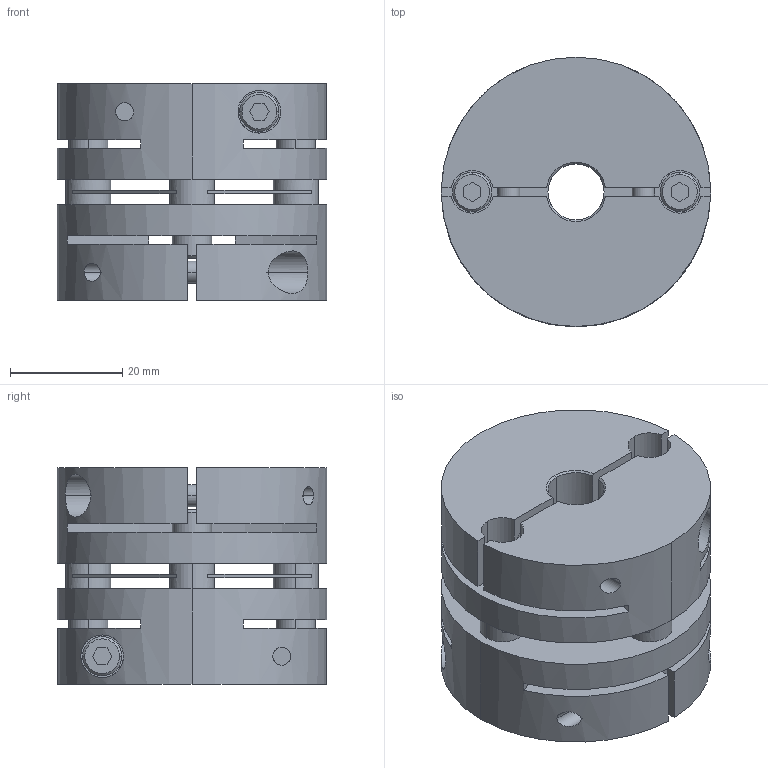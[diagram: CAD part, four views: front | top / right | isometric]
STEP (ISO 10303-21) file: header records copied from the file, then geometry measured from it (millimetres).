
FILE_DESCRIPTION((''),'2;1');
FILE_NAME('LAS-48C-10×18.stp','2015-10-14T15:39:41',(''),(''),'AutoCAD STEP 2000i','AutoCAD 2000i',', , ');
FILE_SCHEMA(('CONFIG_CONTROL_DESIGN'));
Length unit declared in the file: millimetre
Products named in the file (6): LAS-48C-12×19; 忣兜1; LA-4802-D19; LA-4802-D12-1; LA-4802-D12; LAS48-ITA
Assembly tree (5 placements, depth 2):
  LAS-48C-12×19
    忣兜1
    LA-4802-D19
    LA-4802-D12-1
    LA-4802-D12
    LAS48-ITA
Bounding box: 48 x 48 x 38.6 mm (x, y, z)
Volume: 50348.1 mm3; surface area: 22390 mm2
Topology: 1 solids, 1 shells, 224 faces, 600 edges, 392 vertices
Faces by surface type: plane 112, cylinder 84, cone 28
Entity records: 7841 total; most frequent: CARTESIAN_POINT 1878, DIRECTION 1256, ORIENTED_EDGE 1200, EDGE_CURVE 600, AXIS2_PLACEMENT_3D 458, VERTEX_POINT 392, VECTOR 340, LINE 340
